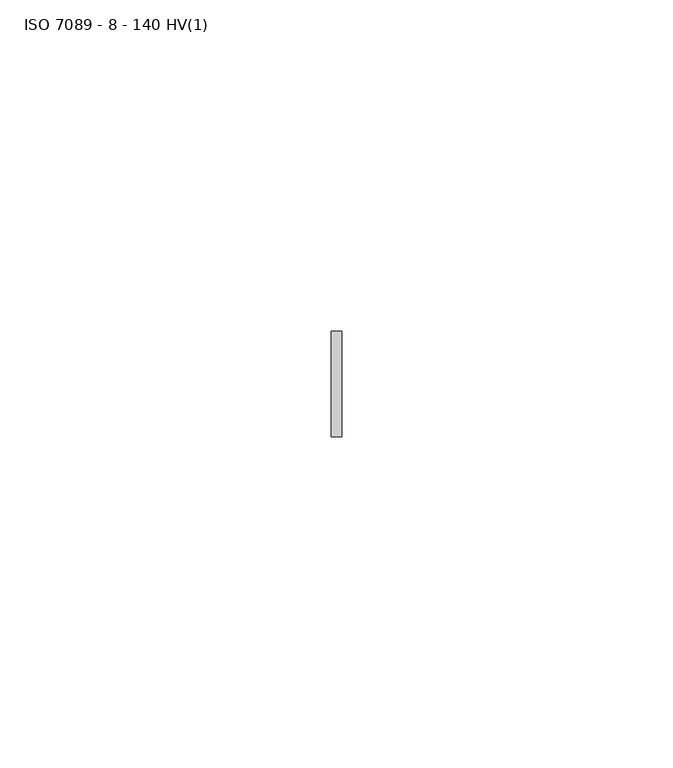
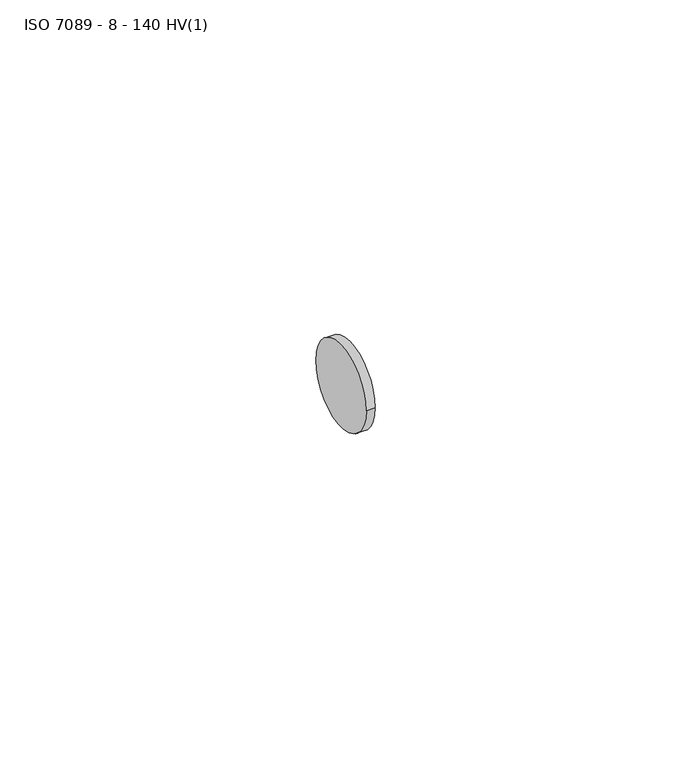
"""IFC4 building model written with IfcOpenShell, lengths in millimetres: proxy geometry, ISO 7089 - 8 - 140 HV(1)."""

from ifc_helpers import new_model, si_unit, point, frame, origin, origin_2d, place, context, project, spatial, circle_curve, trimmed, segment, composite_curve, outline, extrude, source, transform, mapped, element, save


def iso_7089_8_140_hv_1_d5703aaf(model_context):
    return source(origin(), model_context, "Body", "SweptSolid", [
        extrude(outline(composite_curve([segment(trimmed(circle_curve(origin_2d(), 8.0), [point((8.0, 0.0))], [point((-8.0, 0.0))], False, "CARTESIAN"), True, "CONTINUOUS"), segment(trimmed(circle_curve(origin_2d(), 8.0), [point((-8.0, 0.0))], [point((8.0, 0.0))], False, "CARTESIAN"), True, "CONTINUOUS")], self_intersect=False)), frame((0.0, 0.0, 0.0), z_axis=(1.0, 0.0, 0.0), x_axis=(0.0, 1.0, 0.0)), (0.0, 0.0, 1.0), 1.6),
    ])


if __name__ == "__main__":
    model = new_model("IFC4")
    model_context = context("Model", 3, world=origin())
    ifc_project = project(units=[si_unit("LENGTHUNIT", "METRE", prefix="MILLI")], contexts=[model_context])
    site = spatial("IfcSite", under=ifc_project)
    building = spatial("IfcBuilding", under=site)
    placement = place(None, origin())
    iso_7089_8_140_hv_1_shape = iso_7089_8_140_hv_1_d5703aaf(model_context)
    element("IfcBuildingElementProxy", 1, Name="ISO 7089 - 8 - 140 HV(1)", ObjectType="ISO 7089 - 8 - 140 HV(1)", at=placement, inside=building, context=model_context, shape_type="MappedRepresentation", body=[
        mapped(iso_7089_8_140_hv_1_shape, transform((0.0, 0.0, 0.0), x_axis=(1.0, 0.0, 0.0), y_axis=(0.0, 1.0, 0.0), z_axis=(0.0, 0.0, 1.0))),
    ])
    save(model, "model.ifc")
